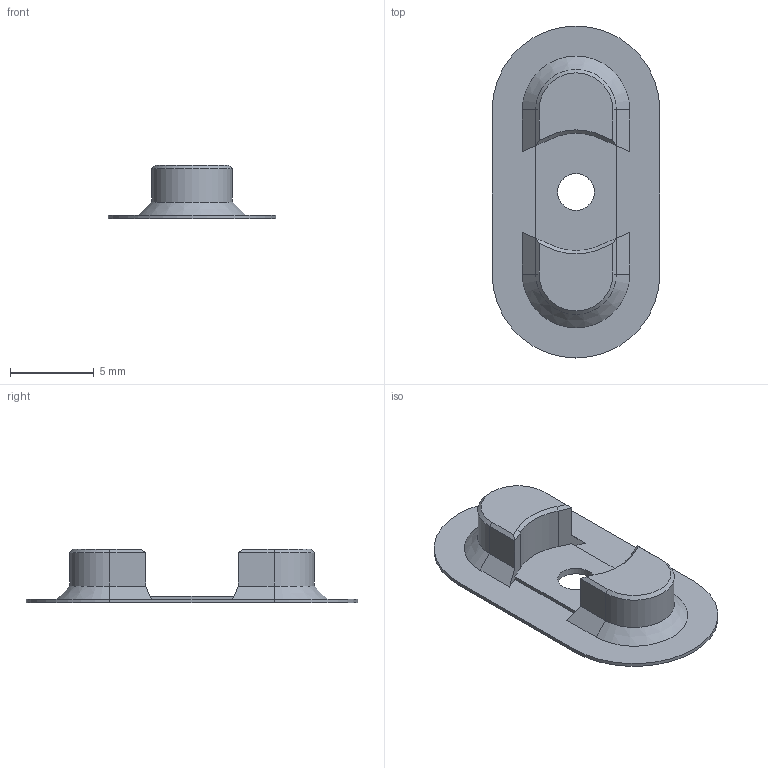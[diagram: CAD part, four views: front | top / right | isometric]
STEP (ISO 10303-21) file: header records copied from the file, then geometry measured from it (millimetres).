
FILE_DESCRIPTION(/* description */ ('STEP AP242','CAx-IF Rec.Pracs.---Representation and Presentation of Product Manufacturing Information (PMI)---4.0---2014-10-13','CAx-IF Rec.Pracs.---3D Tessellated Geometry---0.4---2014-09-14','2;1'),/* implementation_level */ '2;1');
FILE_NAME(/* name */ '62b5d8c0beb4187a4afae992',/* time_stamp */ '2022-06-24T15:31:13+00:00',/* author */ (''),/* organization */ (''),/* preprocessor_version */ 'ST-DEVELOPER v18.102',/* originating_system */ ' ',/* authorisation */ ' ');
FILE_SCHEMA (('AP242_MANAGED_MODEL_BASED_3D_ENGINEERING_MIM_LF { 1 0 10303 442 1 1 4 }'));
Length unit declared in the file: metre
Products named in the file (1): Alignment Guide M2
Bounding box: 10 x 19.8 x 3.2 mm (x, y, z)
Volume: 150 mm3; surface area: 447.2 mm2
Topology: 1 solids, 1 shells, 42 faces, 101 edges, 62 vertices
Faces by surface type: plane 29, cylinder 7, cone 6
Full cylindrical faces by diameter (mm): 2.2 x1
Entity records: 1222 total; most frequent: CARTESIAN_POINT 217, DIRECTION 202, ORIENTED_EDGE 200, EDGE_CURVE 100, LINE 76, VECTOR 76, AXIS2_PLACEMENT_3D 63, VERTEX_POINT 62
